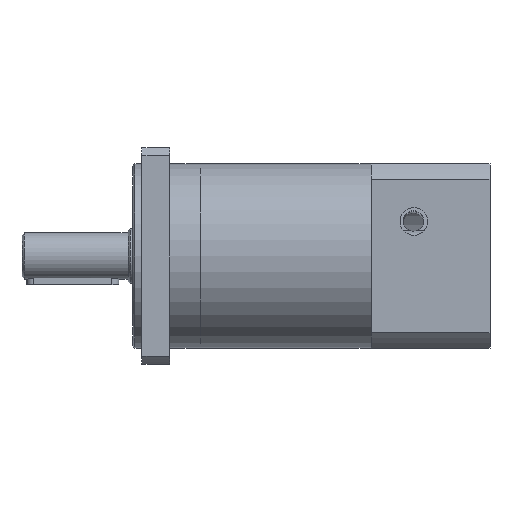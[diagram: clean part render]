
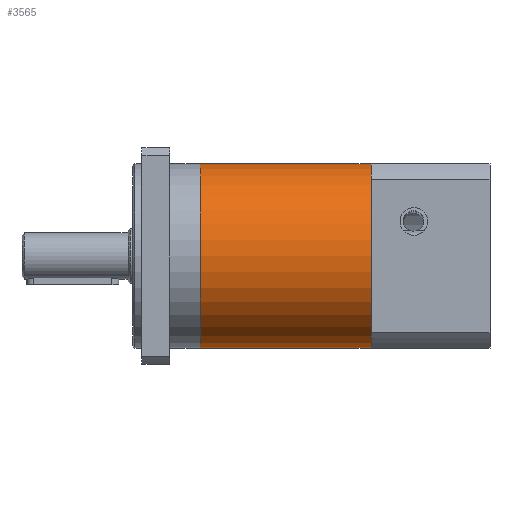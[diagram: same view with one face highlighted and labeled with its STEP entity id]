
A CAD part, left-side view. The second image highlights one B-rep face of the part: STEP entity #3565.
In plain terms, the highlighted cylindrical face has radius 20 mm (diameter 40 mm), a partial arc.
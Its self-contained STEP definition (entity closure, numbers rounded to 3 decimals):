
#276 = VECTOR ( 'NONE', #1499, 1000. ) ;
#579 = DIRECTION ( 'NONE',  ( 0., 1., 0. ) ) ;
#806 = DIRECTION ( 'NONE',  ( 0., -1., 0. ) ) ;
#953 = CARTESIAN_POINT ( 'NONE',  ( 0., 62.8, 20. ) ) ;
#966 = ORIENTED_EDGE ( 'NONE', *, *, #1258, .T. ) ;
#1139 = ORIENTED_EDGE ( 'NONE', *, *, #4521, .F. ) ;
#1158 = AXIS2_PLACEMENT_3D ( 'NONE', #3034, #579, #2694 ) ;
#1188 = DIRECTION ( 'NONE',  ( 0., 0., -1. ) ) ;
#1237 = LINE ( 'NONE', #1833, #276 ) ;
#1258 = EDGE_CURVE ( 'NONE', #3225, #2106, #1237, .T. ) ;
#1427 = EDGE_CURVE ( 'NONE', #2106, #4540, #1983, .T. ) ;
#1444 = AXIS2_PLACEMENT_3D ( 'NONE', #1859, #806, #1188 ) ;
#1499 = DIRECTION ( 'NONE',  ( 0., -1., 0. ) ) ;
#1504 = DIRECTION ( 'NONE',  ( 0., 1., 0. ) ) ;
#1677 = ORIENTED_EDGE ( 'NONE', *, *, #3837, .F. ) ;
#1682 = CARTESIAN_POINT ( 'NONE',  ( 0., 25.8, -20. ) ) ;
#1833 = CARTESIAN_POINT ( 'NONE',  ( 0., 62.8, -20. ) ) ;
#1859 = CARTESIAN_POINT ( 'NONE',  ( 0., 62.8, 0. ) ) ;
#1966 = CIRCLE ( 'NONE', #2725, 20. ) ;
#1983 = CIRCLE ( 'NONE', #1158, 20. ) ;
#2106 = VERTEX_POINT ( 'NONE', #1682 ) ;
#2205 = LINE ( 'NONE', #953, #3972 ) ;
#2453 = CARTESIAN_POINT ( 'NONE',  ( 0., 62.8, -20. ) ) ;
#2479 = EDGE_LOOP ( 'NONE', ( #1677, #1139, #966, #4089 ) ) ;
#2694 = DIRECTION ( 'NONE',  ( 0., 0., 1. ) ) ;
#2725 = AXIS2_PLACEMENT_3D ( 'NONE', #3594, #1504, #3956 ) ;
#3002 = FACE_OUTER_BOUND ( 'NONE', #2479, .T. ) ;
#3034 = CARTESIAN_POINT ( 'NONE',  ( 0., 25.8, 0. ) ) ;
#3172 = VERTEX_POINT ( 'NONE', #4542 ) ;
#3225 = VERTEX_POINT ( 'NONE', #2453 ) ;
#3389 = DIRECTION ( 'NONE',  ( 0., -1., 0. ) ) ;
#3565 = ADVANCED_FACE ( 'NONE', ( #3002 ), #4355, .T. ) ;
#3594 = CARTESIAN_POINT ( 'NONE',  ( 0., 62.8, 0. ) ) ;
#3837 = EDGE_CURVE ( 'NONE', #3172, #4540, #2205, .T. ) ;
#3956 = DIRECTION ( 'NONE',  ( 0., 0., 1. ) ) ;
#3972 = VECTOR ( 'NONE', #3389, 1000. ) ;
#4089 = ORIENTED_EDGE ( 'NONE', *, *, #1427, .T. ) ;
#4289 = CARTESIAN_POINT ( 'NONE',  ( 0., 25.8, 20. ) ) ;
#4355 = CYLINDRICAL_SURFACE ( 'NONE', #1444, 20. ) ;
#4521 = EDGE_CURVE ( 'NONE', #3225, #3172, #1966, .T. ) ;
#4540 = VERTEX_POINT ( 'NONE', #4289 ) ;
#4542 = CARTESIAN_POINT ( 'NONE',  ( 0., 62.8, 20. ) ) ;
